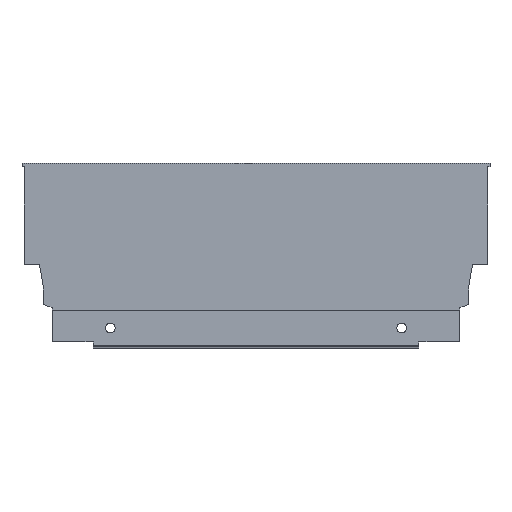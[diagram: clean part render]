
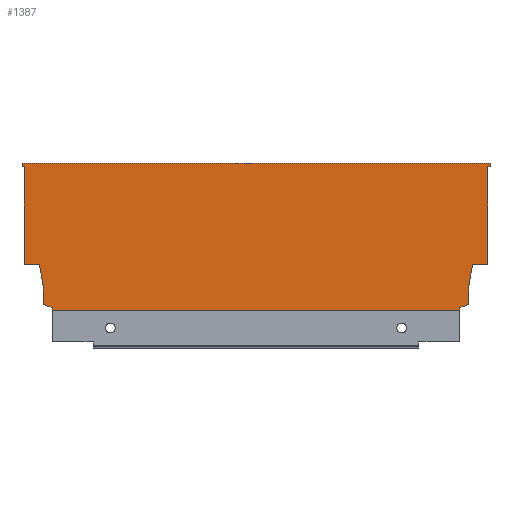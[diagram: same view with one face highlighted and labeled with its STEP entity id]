
A CAD part, top view. The second image highlights one B-rep face of the part: STEP entity #1387.
In plain terms, the highlighted planar face has unit normal (0, 0, 1).
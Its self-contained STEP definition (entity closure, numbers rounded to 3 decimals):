
#29 = VECTOR ( 'NONE', #789, 1000. ) ;
#30 = LINE ( 'NONE', #788, #29 ) ;
#33 = VECTOR ( 'NONE', #785, 1000. ) ;
#36 = VECTOR ( 'NONE', #780, 1000. ) ;
#37 = LINE ( 'NONE', #779, #36 ) ;
#39 = VECTOR ( 'NONE', #778, 1000. ) ;
#40 = VECTOR ( 'NONE', #776, 1000. ) ;
#41 = LINE ( 'NONE', #775, #40 ) ;
#44 = VECTOR ( 'NONE', #771, 1000. ) ;
#45 = LINE ( 'NONE', #770, #44 ) ;
#46 = VECTOR ( 'NONE', #769, 1000. ) ;
#47 = LINE ( 'NONE', #768, #46 ) ;
#48 = LINE ( 'NONE', #784, #33 ) ;
#49 = VECTOR ( 'NONE', #767, 1000. ) ;
#50 = VECTOR ( 'NONE', #765, 1000. ) ;
#51 = LINE ( 'NONE', #764, #50 ) ;
#52 = VECTOR ( 'NONE', #763, 1000. ) ;
#53 = LINE ( 'NONE', #762, #52 ) ;
#54 = VECTOR ( 'NONE', #761, 1000. ) ;
#55 = LINE ( 'NONE', #760, #54 ) ;
#56 = VECTOR ( 'NONE', #759, 1000. ) ;
#57 = LINE ( 'NONE', #758, #56 ) ;
#58 = VECTOR ( 'NONE', #757, 1000. ) ;
#59 = LINE ( 'NONE', #756, #58 ) ;
#68 = CARTESIAN_POINT ( 'NONE',  ( -201.996, 0., 7.5 ) ) ;
#69 = CARTESIAN_POINT ( 'NONE',  ( -201.996, 1.146, 7.5 ) ) ;
#158 = VERTEX_POINT ( 'NONE', #69 ) ;
#159 = VERTEX_POINT ( 'NONE', #68 ) ;
#164 = VERTEX_POINT ( 'NONE', #216 ) ;
#165 = VERTEX_POINT ( 'NONE', #215 ) ;
#172 = VERTEX_POINT ( 'NONE', #224 ) ;
#174 = VERTEX_POINT ( 'NONE', #226 ) ;
#178 = VERTEX_POINT ( 'NONE', #230 ) ;
#180 = VERTEX_POINT ( 'NONE', #232 ) ;
#181 = VERTEX_POINT ( 'NONE', #233 ) ;
#182 = VERTEX_POINT ( 'NONE', #234 ) ;
#184 = VERTEX_POINT ( 'NONE', #236 ) ;
#185 = VERTEX_POINT ( 'NONE', #237 ) ;
#187 = VERTEX_POINT ( 'NONE', #239 ) ;
#188 = VERTEX_POINT ( 'NONE', #240 ) ;
#201 = VERTEX_POINT ( 'NONE', #253 ) ;
#206 = VERTEX_POINT ( 'NONE', #257 ) ;
#209 = VERTEX_POINT ( 'NONE', #260 ) ;
#211 = VERTEX_POINT ( 'NONE', #262 ) ;
#215 = CARTESIAN_POINT ( 'NONE',  ( -8.9, 10.765, 7.5 ) ) ;
#216 = CARTESIAN_POINT ( 'NONE',  ( -8.9, 2.64, 7.5 ) ) ;
#224 = CARTESIAN_POINT ( 'NONE',  ( -215., 66.5, 7.5 ) ) ;
#226 = CARTESIAN_POINT ( 'NONE',  ( -215., 21.2, 7.5 ) ) ;
#230 = CARTESIAN_POINT ( 'NONE',  ( 1., 66.5, 7.5 ) ) ;
#232 = CARTESIAN_POINT ( 'NONE',  ( -13.004, 0., 7.5 ) ) ;
#233 = CARTESIAN_POINT ( 'NONE',  ( -7.06, 21.2, 7.5 ) ) ;
#234 = CARTESIAN_POINT ( 'NONE',  ( 1., 68., 7.5 ) ) ;
#236 = CARTESIAN_POINT ( 'NONE',  ( -13.004, 1.146, 7.5 ) ) ;
#237 = CARTESIAN_POINT ( 'NONE',  ( -206.1, 10.765, 7.5 ) ) ;
#239 = CARTESIAN_POINT ( 'NONE',  ( -206.1, 2.64, 7.5 ) ) ;
#240 = CARTESIAN_POINT ( 'NONE',  ( -216., 66.5, 7.5 ) ) ;
#253 = CARTESIAN_POINT ( 'NONE',  ( 0., 21.2, 7.5 ) ) ;
#257 = CARTESIAN_POINT ( 'NONE',  ( -216., 68., 7.5 ) ) ;
#260 = CARTESIAN_POINT ( 'NONE',  ( -207.94, 21.2, 7.5 ) ) ;
#262 = CARTESIAN_POINT ( 'NONE',  ( 0., 66.5, 7.5 ) ) ;
#443 = ORIENTED_EDGE ( 'NONE', *, *, #1136, .T. ) ;
#450 = ORIENTED_EDGE ( 'NONE', *, *, #1132, .F. ) ;
#453 = ORIENTED_EDGE ( 'NONE', *, *, #1128, .F. ) ;
#456 = ORIENTED_EDGE ( 'NONE', *, *, #1130, .F. ) ;
#457 = ORIENTED_EDGE ( 'NONE', *, *, #1392, .F. ) ;
#464 = ORIENTED_EDGE ( 'NONE', *, *, #1137, .F. ) ;
#471 = ORIENTED_EDGE ( 'NONE', *, *, #1135, .F. ) ;
#474 = ORIENTED_EDGE ( 'NONE', *, *, #1126, .F. ) ;
#486 = ORIENTED_EDGE ( 'NONE', *, *, #1124, .F. ) ;
#495 = ORIENTED_EDGE ( 'NONE', *, *, #1134, .F. ) ;
#500 = ORIENTED_EDGE ( 'NONE', *, *, #1147, .T. ) ;
#503 = ORIENTED_EDGE ( 'NONE', *, *, #1142, .F. ) ;
#511 = ORIENTED_EDGE ( 'NONE', *, *, #1145, .T. ) ;
#540 = ORIENTED_EDGE ( 'NONE', *, *, #1139, .F. ) ;
#558 = ORIENTED_EDGE ( 'NONE', *, *, #1143, .F. ) ;
#563 = ORIENTED_EDGE ( 'NONE', *, *, #1138, .F. ) ;
#568 = ORIENTED_EDGE ( 'NONE', *, *, #1141, .F. ) ;
#596 = ORIENTED_EDGE ( 'NONE', *, *, #1133, .F. ) ;
#698 = FACE_OUTER_BOUND ( 'NONE', #1510, .T. ) ;
#705 = LINE ( 'NONE', #1002, #706 ) ;
#706 = VECTOR ( 'NONE', #1003, 1000. ) ;
#740 = CARTESIAN_POINT ( 'NONE',  ( 1., 68., 7.5 ) ) ;
#741 = DIRECTION ( 'NONE',  ( 0., -1., 0. ) ) ;
#744 = CARTESIAN_POINT ( 'NONE',  ( 1., 66.5, 7.5 ) ) ;
#745 = DIRECTION ( 'NONE',  ( -1., 0., 0. ) ) ;
#746 = CARTESIAN_POINT ( 'NONE',  ( 0., 21.2, 7.5 ) ) ;
#748 = CARTESIAN_POINT ( 'NONE',  ( -201.996, 1.146, 7.5 ) ) ;
#749 = DIRECTION ( 'NONE',  ( -1., 0., 0. ) ) ;
#752 = CARTESIAN_POINT ( 'NONE',  ( -7.06, 21.2, 7.5 ) ) ;
#753 = DIRECTION ( 'NONE',  ( -0.174, -0.985, 0. ) ) ;
#756 = CARTESIAN_POINT ( 'NONE',  ( -8.9, 10.765, 7.5 ) ) ;
#757 = DIRECTION ( 'NONE',  ( 0., -1., 0. ) ) ;
#758 = CARTESIAN_POINT ( 'NONE',  ( -8.9, 2.64, 7.5 ) ) ;
#759 = DIRECTION ( 'NONE',  ( -0.94, -0.342, 0. ) ) ;
#760 = CARTESIAN_POINT ( 'NONE',  ( -206.1, 2.64, 7.5 ) ) ;
#761 = DIRECTION ( 'NONE',  ( -0.94, 0.342, 0. ) ) ;
#762 = CARTESIAN_POINT ( 'NONE',  ( -13.004, 1.146, 7.5 ) ) ;
#763 = DIRECTION ( 'NONE',  ( 0., -1., 0. ) ) ;
#764 = CARTESIAN_POINT ( 'NONE',  ( -215., 0., 7.5 ) ) ;
#765 = DIRECTION ( 'NONE',  ( 0., -1., 0. ) ) ;
#766 = CARTESIAN_POINT ( 'NONE',  ( -207.94, 21.2, 7.5 ) ) ;
#767 = DIRECTION ( 'NONE',  ( 0., 1., 0. ) ) ;
#768 = CARTESIAN_POINT ( 'NONE',  ( -216., 66.5, 7.5 ) ) ;
#769 = DIRECTION ( 'NONE',  ( 0., 1., 0. ) ) ;
#770 = CARTESIAN_POINT ( 'NONE',  ( -206.1, 10.765, 7.5 ) ) ;
#771 = DIRECTION ( 'NONE',  ( 0., 1., 0. ) ) ;
#775 = CARTESIAN_POINT ( 'NONE',  ( -215., 68., 7.5 ) ) ;
#776 = DIRECTION ( 'NONE',  ( 1., 0., 0. ) ) ;
#778 = DIRECTION ( 'NONE',  ( -0.174, 0.985, 0. ) ) ;
#779 = CARTESIAN_POINT ( 'NONE',  ( -220., 21.2, 7.5 ) ) ;
#780 = DIRECTION ( 'NONE',  ( -1., 0., 0. ) ) ;
#784 = CARTESIAN_POINT ( 'NONE',  ( -216., 66.5, 7.5 ) ) ;
#785 = DIRECTION ( 'NONE',  ( 1., 0., 0. ) ) ;
#788 = CARTESIAN_POINT ( 'NONE',  ( -215., 0., 7.5 ) ) ;
#789 = DIRECTION ( 'NONE',  ( 1., 0., 0. ) ) ;
#982 = PLANE ( 'NONE',  #1208 ) ;
#985 = CARTESIAN_POINT ( 'NONE',  ( -215., 0., 7.5 ) ) ;
#990 = DIRECTION ( 'NONE',  ( 0., 0., 1. ) ) ;
#991 = DIRECTION ( 'NONE',  ( 1., 0., 0. ) ) ;
#1002 = CARTESIAN_POINT ( 'NONE',  ( 0., 0., 7.5 ) ) ;
#1003 = DIRECTION ( 'NONE',  ( 0., -1., 0. ) ) ;
#1124 = EDGE_CURVE ( 'NONE', #182, #178, #1324, .T. ) ;
#1126 = EDGE_CURVE ( 'NONE', #178, #211, #1326, .T. ) ;
#1128 = EDGE_CURVE ( 'NONE', #201, #181, #1249, .T. ) ;
#1130 = EDGE_CURVE ( 'NONE', #181, #165, #1335, .T. ) ;
#1132 = EDGE_CURVE ( 'NONE', #165, #164, #59, .T. ) ;
#1133 = EDGE_CURVE ( 'NONE', #164, #184, #57, .T. ) ;
#1134 = EDGE_CURVE ( 'NONE', #158, #187, #55, .T. ) ;
#1135 = EDGE_CURVE ( 'NONE', #184, #180, #53, .T. ) ;
#1136 = EDGE_CURVE ( 'NONE', #172, #174, #51, .T. ) ;
#1137 = EDGE_CURVE ( 'NONE', #159, #158, #1223, .T. ) ;
#1138 = EDGE_CURVE ( 'NONE', #188, #206, #47, .T. ) ;
#1139 = EDGE_CURVE ( 'NONE', #187, #185, #45, .T. ) ;
#1141 = EDGE_CURVE ( 'NONE', #206, #182, #41, .T. ) ;
#1142 = EDGE_CURVE ( 'NONE', #185, #209, #1329, .T. ) ;
#1143 = EDGE_CURVE ( 'NONE', #209, #174, #37, .T. ) ;
#1145 = EDGE_CURVE ( 'NONE', #188, #172, #48, .T. ) ;
#1147 = EDGE_CURVE ( 'NONE', #159, #180, #30, .T. ) ;
#1208 = AXIS2_PLACEMENT_3D ( 'NONE', #985, #990, #991 ) ;
#1223 = LINE ( 'NONE', #748, #49 ) ;
#1249 = LINE ( 'NONE', #746, #1333 ) ;
#1323 = VECTOR ( 'NONE', #741, 1000. ) ;
#1324 = LINE ( 'NONE', #740, #1323 ) ;
#1326 = LINE ( 'NONE', #744, #1331 ) ;
#1329 = LINE ( 'NONE', #766, #39 ) ;
#1331 = VECTOR ( 'NONE', #745, 1000. ) ;
#1333 = VECTOR ( 'NONE', #749, 1000. ) ;
#1334 = VECTOR ( 'NONE', #753, 1000. ) ;
#1335 = LINE ( 'NONE', #752, #1334 ) ;
#1387 = ADVANCED_FACE ( 'NONE', ( #698 ), #982, .T. ) ;
#1392 = EDGE_CURVE ( 'NONE', #211, #201, #705, .T. ) ;
#1510 = EDGE_LOOP ( 'NONE', ( #568, #563, #511, #443, #558, #503, #540, #495, #464, #500, #471, #596, #450, #456, #453, #457, #474, #486 ) ) ;
